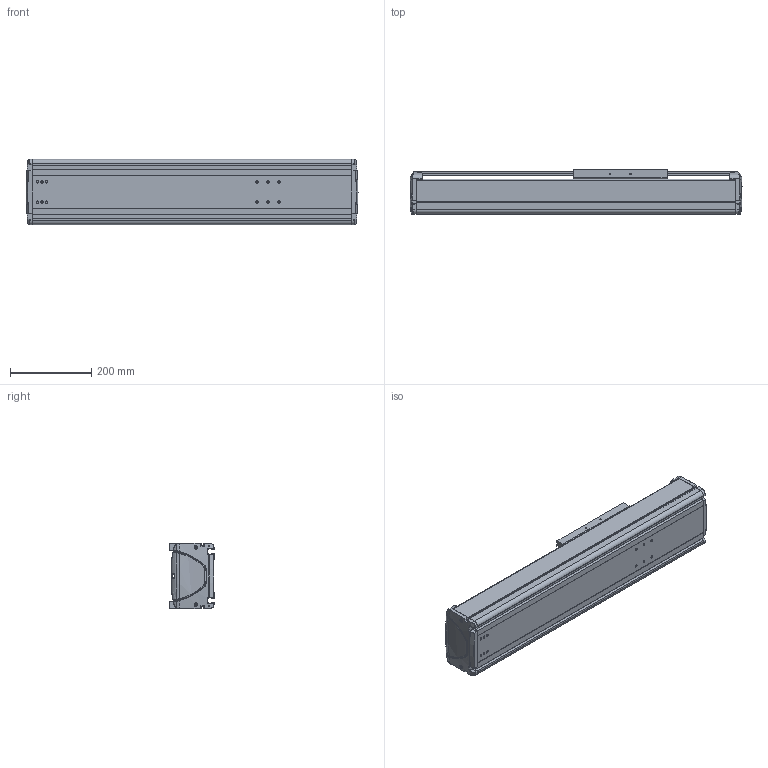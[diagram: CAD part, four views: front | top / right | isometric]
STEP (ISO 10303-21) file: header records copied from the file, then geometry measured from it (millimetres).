
FILE_DESCRIPTION((''),'2;1');
FILE_NAME('BE50G-ST-L_B-35_IGS_PRT','2017-06-18T',(' '),(''),'PRO/ENGINEER BY PARAMETRIC TECHNOLOGY CORPORATION, 2015030','PRO/ENGINEER BY PARAMETRIC TECHNOLOGY CORPORATION, 2015030','');
FILE_SCHEMA(('CONFIG_CONTROL_DESIGN'));
Length unit declared in the file: millimetre
Products named in the file (1): BE50G-ST-L_B-35_IGS_PRT
Bounding box: 814.98 x 110 x 160 mm (x, y, z)
Volume: 3633219.7 mm3; surface area: 1335694 mm2
Topology: 7 solids, 82 shells, 1524 faces, 4012 edges, 2577 vertices
Faces by surface type: cylinder 654, plane 577, bspline 106, torus 87, cone 60, sphere 40
Entity records: 52443 total; most frequent: CARTESIAN_POINT 15146, ORIENTED_EDGE 7660, DIRECTION 7658, EDGE_CURVE 3980, AXIS2_PLACEMENT_3D 2848, VERTEX_POINT 2575, VECTOR 1962, LINE 1962
